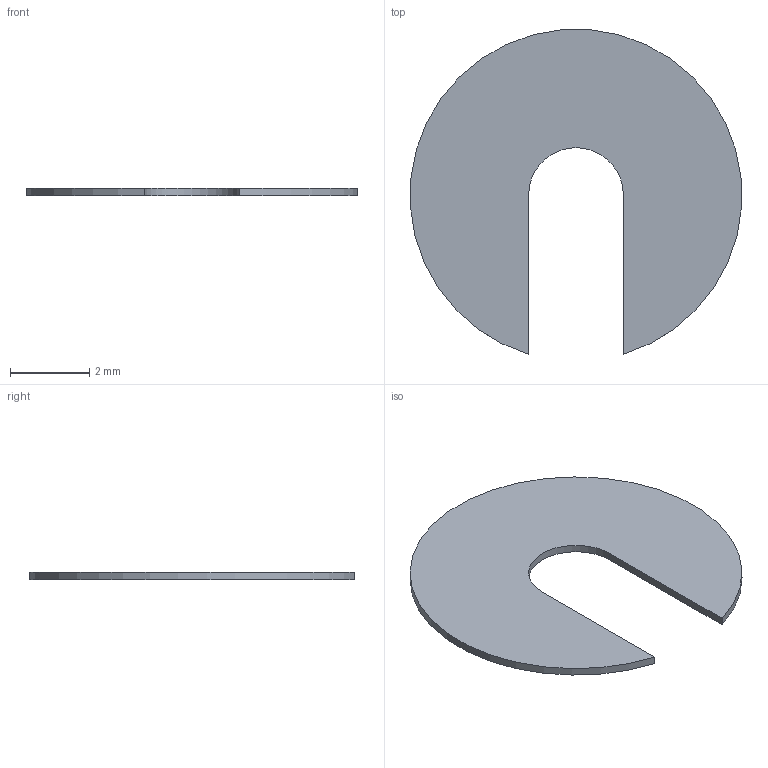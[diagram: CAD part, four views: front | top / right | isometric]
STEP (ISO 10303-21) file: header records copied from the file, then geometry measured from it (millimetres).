
FILE_DESCRIPTION(('SkyG Speed 90B - revision C6B-22 - 2026-10-16','LS-lip-shim'),'2;1');
FILE_NAME('LS-lip-shim_C6B-22','2026-10-16T19:15:21',('Author'),( 'Open CASCADE'),'Open CASCADE STEP processor 7.9','Open CASCADE 7.9' ,'Unknown');
FILE_SCHEMA(('AUTOMOTIVE_DESIGN { 1 0 10303 214 1 1 1 1 }'));
Length unit declared in the file: millimetre
Products named in the file (1): LS-lip-shim C6B-22
Bounding box: 8.38 x 8.21 x 0.2 mm (x, y, z)
Volume: 8.6 mm3; surface area: 93.6 mm2
Topology: 1 solids, 1 shells, 6 faces, 12 edges, 8 vertices
Faces by surface type: plane 4, cylinder 2
Entity records: 316 total; most frequent: CARTESIAN_POINT 70, DIRECTION 40, ORIENTED_EDGE 24, PCURVE 24, DEFINITIONAL_REPRESENTATION 24, LINE 15, VECTOR 15, B_SPLINE_CURVE_WITH_KNOTS 13
